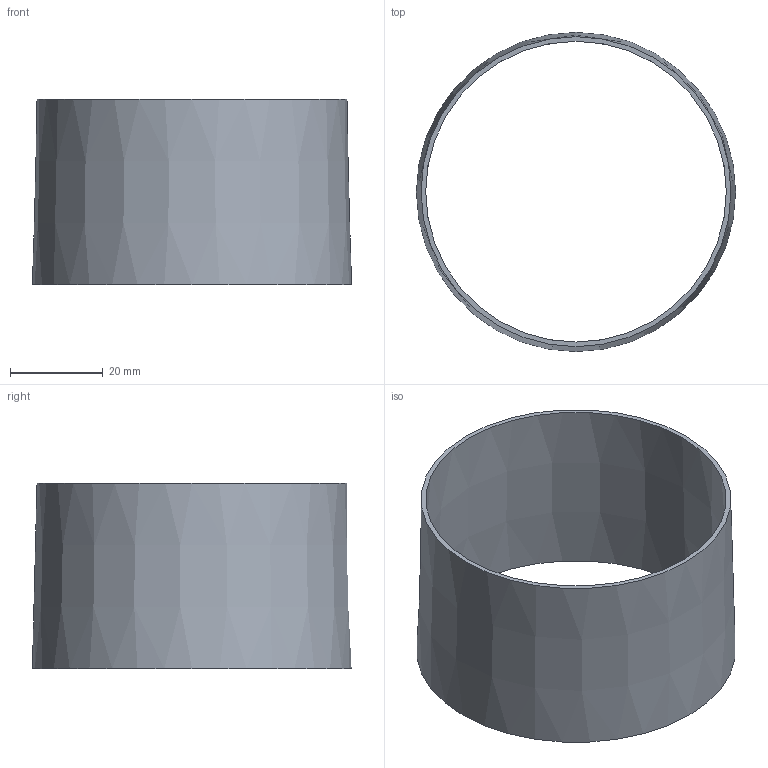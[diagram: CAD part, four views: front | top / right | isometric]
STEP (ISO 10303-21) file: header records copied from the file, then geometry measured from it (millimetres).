
FILE_DESCRIPTION( ( 'STEP AP214' ), '1' );
FILE_NAME( 'C:/Users/ilukic/Documents/ex/gebaudeentwasserung/pe/Geberit PE support ring/359457.stp', '2020-03-26T18:41:23', ( '' ), ( '' ), ' ', 'PARTsolutions', ' ' );
FILE_SCHEMA( ( 'AUTOMOTIVE_DESIGN { 1 0 10303 214 1 1 1 1 }' ) );
Length unit declared in the file: millimetre
Products named in the file (1): _359457
Bounding box: 69 x 69 x 40 mm (x, y, z)
Volume: 8422.2 mm3; surface area: 17265.6 mm2
Topology: 1 solids, 1 shells, 4 faces, 6 edges, 4 vertices
Faces by surface type: cone 2, plane 2
Entity records: 136 total; most frequent: DIRECTION 18, CARTESIAN_POINT 13, AXIS2_PLACEMENT_3D 9, EDGE_LOOP 8, ORIENTED_EDGE 8, STYLED_ITEM 4, PRESENTATION_STYLE_ASSIGNMENT 4, ADVANCED_FACE 4
